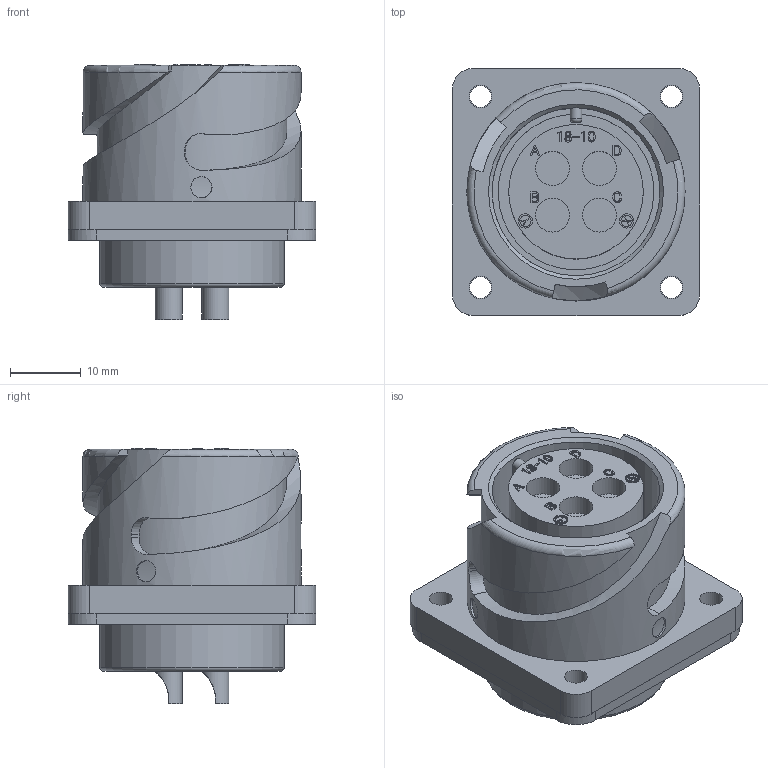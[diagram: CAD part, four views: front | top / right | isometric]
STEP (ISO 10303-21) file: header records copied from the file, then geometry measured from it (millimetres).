
FILE_DESCRIPTION (( 'STEP AP203' ), '1' );
FILE_NAME ('DCA3102R18-10S-D(R1).STEP', '2021-12-22T08:40:46', ( '' ), ( '' ), 'SwSTEP 2.0', 'SolidWorks 2018', '' );
FILE_SCHEMA (( 'CONFIG_CONTROL_DESIGN' ));
Length unit declared in the file: millimetre
Products named in the file (1): DCA3102R18-10S-D(R1)
Bounding box: 34.93 x 34.93 x 36.05 mm (x, y, z)
Volume: 19561.7 mm3; surface area: 9606.9 mm2
Topology: 1 solids, 1 shells, 481 faces, 1254 edges, 829 vertices
Faces by surface type: plane 211, bspline 199, cylinder 56, cone 10, torus 5
Full cylindrical faces by diameter (mm): 1.6 x2, 2 x2, 3 x4, 3.05 x4, 3.2 x4, 3.8 x4, 4.8 x8, 19 x1, 22 x1, 23.7 x1, 26 x1, 30.8 x1
Entity records: 22352 total; most frequent: CARTESIAN_POINT 12112, ORIENTED_EDGE 2372, DIRECTION 1434, EDGE_CURVE 1186, VERTEX_POINT 809, VECTOR 634, LINE 634, EDGE_LOOP 589
